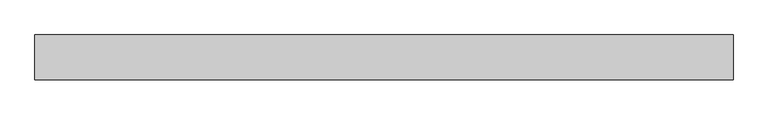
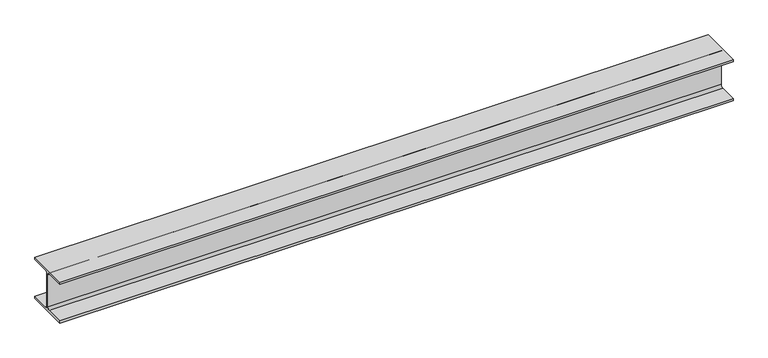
"""IFC4 building model written with IfcOpenShell, lengths in millimetres: beam geometry, M_WF-Wide Flange-Framing : WF - 300x300x10x15 mm. - 94 kg./m.."""

from ifc_helpers import new_model, si_unit, point, frame, frame_2d, origin, place, context, project, spatial, polyline, circle_curve, trimmed, segment, composite_curve, outline, extrude, source, transform, mapped, element, save


def beam_6505a9ed(model_context):
    return source(origin(), model_context, "Body", "SweptSolid", [
        extrude(outline(composite_curve([segment(polyline([(150.0, -135.0), (150.0, -150.0), (-150.0, -150.0), (-150.0, -135.0), (-23.0, -135.0)]), True, "CONTINUOUS"), segment(trimmed(circle_curve(frame_2d((-23.0, -117.0)), 18.0), [point((-23.0, -135.0))], [point((-5.0, -117.0))], True, "CARTESIAN"), True, "CONTINUOUS"), segment(polyline([(-5.0, -117.0), (-5.0, 117.0)]), True, "CONTINUOUS"), segment(trimmed(circle_curve(frame_2d((-23.0, 117.0)), 18.0), [point((-5.0, 117.0))], [point((-23.0, 135.0))], True, "CARTESIAN"), True, "CONTINUOUS"), segment(polyline([(-23.0, 135.0), (-150.0, 135.0), (-150.0, 150.0), (150.0, 150.0), (150.0, 135.0), (23.0, 135.0)]), True, "CONTINUOUS"), segment(trimmed(circle_curve(frame_2d((23.0, 117.0)), 18.0), [point((23.0, 135.0))], [point((5.0, 117.0))], True, "CARTESIAN"), True, "CONTINUOUS"), segment(polyline([(5.0, 117.0), (5.0, -117.0)]), True, "CONTINUOUS"), segment(trimmed(circle_curve(frame_2d((23.0, -117.0)), 18.0), [point((5.0, -117.0))], [point((23.0, -135.0))], True, "CARTESIAN"), True, "CONTINUOUS"), segment(polyline([(23.0, -135.0), (150.0, -135.0)]), True, "CONTINUOUS")], self_intersect=False)), frame((-2337.0, 0.0, 0.0), z_axis=(1.0, 0.0, 0.0), x_axis=(0.0, 1.0, 0.0)), (0.0, 0.0, 1.0), 4674.0),
    ])


if __name__ == "__main__":
    model = new_model("IFC4")
    model_context = context("Model", 3, world=origin())
    ifc_project = project(units=[si_unit("LENGTHUNIT", "METRE", prefix="MILLI")], contexts=[model_context])
    site = spatial("IfcSite", under=ifc_project)
    building = spatial("IfcBuilding", under=site)
    placement = place(None, origin())
    beam_shape = beam_6505a9ed(model_context)
    element("IfcBeam", 1, ObjectType="M_WF-Wide Flange-Framing : WF - 300x300x10x15 mm. - 94 kg./m.", at=placement, inside=building, context=model_context, shape_type="MappedRepresentation", body=[
        mapped(beam_shape, transform((0.0, 0.0, 0.0), x_axis=(1.0, 0.0, 0.0), y_axis=(0.0, 1.0, 0.0), z_axis=(0.0, 0.0, 1.0))),
    ])
    save(model, "model.ifc")
